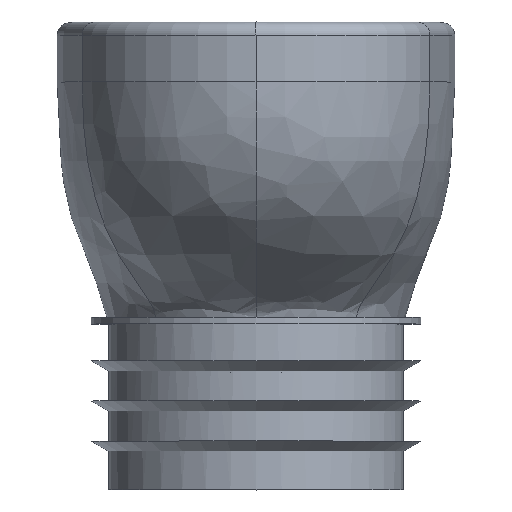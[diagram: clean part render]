
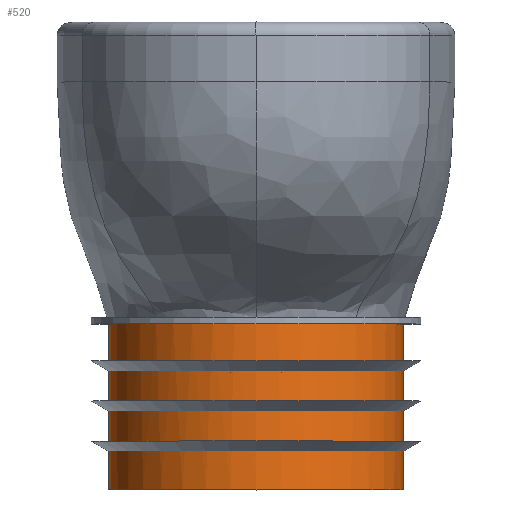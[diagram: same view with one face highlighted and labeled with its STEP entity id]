
A CAD part, top view. The second image highlights one B-rep face of the part: STEP entity #520.
In plain terms, the highlighted cylindrical face has radius 44.45 mm (diameter 88.9 mm), a full revolution.
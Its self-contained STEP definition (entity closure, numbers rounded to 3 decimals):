
#21=FACE_BOUND($,#164,.T.);
#103=CYLINDRICAL_SURFACE($,#594,44.45);
#131=FACE_OUTER_BOUND($,#163,.T.);
#163=EDGE_LOOP($,(#450,#451,#452,#453,#454,#455,#456));
#164=EDGE_LOOP($,(#457));
#224=CIRCLE($,#587,44.45);
#225=CIRCLE($,#588,44.45);
#226=CIRCLE($,#589,44.45);
#227=CIRCLE($,#590,44.45);
#228=CIRCLE($,#591,44.45);
#229=CIRCLE($,#592,44.45);
#230=CIRCLE($,#593,44.45);
#231=CIRCLE($,#595,44.45);
#271=VERTEX_POINT($,#935);
#272=VERTEX_POINT($,#936);
#273=VERTEX_POINT($,#986);
#274=VERTEX_POINT($,#987);
#275=VERTEX_POINT($,#1022);
#276=VERTEX_POINT($,#1056);
#277=VERTEX_POINT($,#1102);
#278=VERTEX_POINT($,#1138);
#330=EDGE_CURVE($,#271,#272,#224,.T.);
#333=EDGE_CURVE($,#273,#274,#225,.T.);
#334=EDGE_CURVE($,#274,#271,#226,.T.);
#336=EDGE_CURVE($,#275,#273,#227,.T.);
#338=EDGE_CURVE($,#276,#275,#228,.T.);
#340=EDGE_CURVE($,#277,#276,#229,.T.);
#342=EDGE_CURVE($,#272,#277,#230,.T.);
#343=EDGE_CURVE($,#278,#278,#231,.T.);
#450=ORIENTED_EDGE($,*,*,#334,.F.);
#451=ORIENTED_EDGE($,*,*,#333,.F.);
#452=ORIENTED_EDGE($,*,*,#336,.F.);
#453=ORIENTED_EDGE($,*,*,#338,.F.);
#454=ORIENTED_EDGE($,*,*,#340,.F.);
#455=ORIENTED_EDGE($,*,*,#342,.F.);
#456=ORIENTED_EDGE($,*,*,#330,.F.);
#457=ORIENTED_EDGE($,*,*,#343,.T.);
#520=ADVANCED_FACE($,(#131,#21),#103,.T.);
#587=AXIS2_PLACEMENT_3D($,#937,#725,#726);
#588=AXIS2_PLACEMENT_3D($,#988,#727,#728);
#589=AXIS2_PLACEMENT_3D($,#989,#729,#730);
#590=AXIS2_PLACEMENT_3D($,#1023,#731,#732);
#591=AXIS2_PLACEMENT_3D($,#1057,#733,#734);
#592=AXIS2_PLACEMENT_3D($,#1103,#735,#736);
#593=AXIS2_PLACEMENT_3D($,#1136,#737,#738);
#594=AXIS2_PLACEMENT_3D($,#1137,#739,#740);
#595=AXIS2_PLACEMENT_3D($,#1139,#741,#742);
#725=DIRECTION('center_axis',(0.,1.,0.));
#726=DIRECTION('ref_axis',(-1.,0.,0.));
#727=DIRECTION('center_axis',(0.,1.,0.));
#728=DIRECTION('ref_axis',(-1.,0.,0.));
#729=DIRECTION('center_axis',(0.,1.,0.));
#730=DIRECTION('ref_axis',(-1.,0.,0.));
#731=DIRECTION('center_axis',(0.,1.,0.));
#732=DIRECTION('ref_axis',(-1.,0.,0.));
#733=DIRECTION('center_axis',(0.,1.,0.));
#734=DIRECTION('ref_axis',(-1.,0.,0.));
#735=DIRECTION('center_axis',(0.,1.,0.));
#736=DIRECTION('ref_axis',(-1.,0.,0.));
#737=DIRECTION('center_axis',(0.,1.,0.));
#738=DIRECTION('ref_axis',(-1.,0.,0.));
#739=DIRECTION('center_axis',(0.,1.,0.));
#740=DIRECTION('ref_axis',(-1.,0.,0.));
#741=DIRECTION('center_axis',(0.,1.,0.));
#742=DIRECTION('ref_axis',(-1.,0.,0.));
#935=CARTESIAN_POINT('',(30.158,0.,-32.654));
#936=CARTESIAN_POINT('',(0.,0.,-44.45));
#937=CARTESIAN_POINT('Origin',(0.,0.,0.));
#986=CARTESIAN_POINT('',(30.158,0.,32.654));
#987=CARTESIAN_POINT('',(44.45,0.,0.));
#988=CARTESIAN_POINT('Origin',(0.,0.,0.));
#989=CARTESIAN_POINT('Origin',(0.,0.,0.));
#1022=CARTESIAN_POINT('',(0.,0.,44.45));
#1023=CARTESIAN_POINT('Origin',(0.,0.,0.));
#1056=CARTESIAN_POINT('',(-30.158,0.,32.654));
#1057=CARTESIAN_POINT('Origin',(0.,0.,0.));
#1102=CARTESIAN_POINT('',(-30.158,0.,-32.654));
#1103=CARTESIAN_POINT('Origin',(0.,0.,0.));
#1136=CARTESIAN_POINT('Origin',(0.,0.,0.));
#1137=CARTESIAN_POINT('Origin',(0.,-50.,0.));
#1138=CARTESIAN_POINT('',(44.45,-50.,0.));
#1139=CARTESIAN_POINT('Origin',(0.,-50.,0.));
